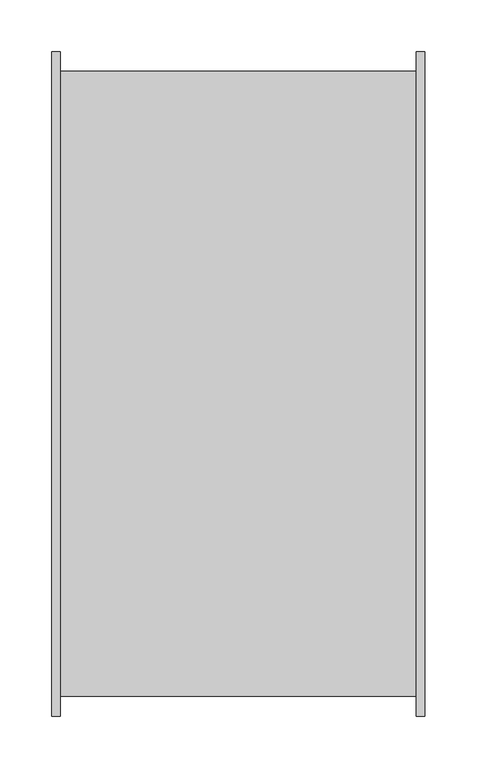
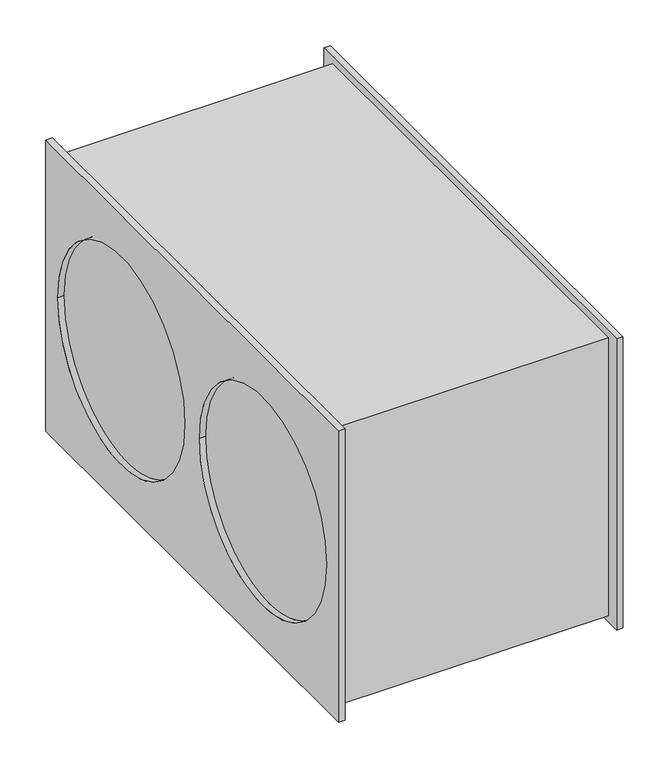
"""IFC4 building model written with IfcOpenShell, lengths in millimetres: unitary equipment geometry, VE-Wentylator-ParaForma-Harmann-JETTEC_REC-Nawiewny : 060/35/3500S."""

from ifc_helpers import new_model, si_unit, frame, origin, place, context, project, spatial, polyline, circle_curve, source, transform, mapped, element, save
from ifc_brep_helpers import plane_surface, revolved_surface, advanced_brep


def unitary_equipment_565278f3(model_context):
    return source(origin(), model_context, "Body", "AdvancedBrep", [
        advanced_brep(
        [(171.5, -319.8, -194.0), (171.5, -319.8, 194.0), (171.5, 319.8, 194.0), (171.5, 319.8, -194.0), (171.5, -301.0, 184.0), (171.5, -301.0, -186.5), (171.5, 301.0, -186.5), (171.5, 301.0, 184.0), (179.5, -319.8, -194.0), (179.5, 319.8, -194.0), (179.5, 319.8, 194.0), (179.5, -319.8, 194.0), (179.5, -293.55, 0.0), (179.5, -16.05, 0.0), (179.5, 16.05, 0.0), (179.5, 293.55, 0.0), (171.5, -16.05, 0.0), (171.5, -293.55, 0.0), (171.5, 293.55, 0.0), (171.5, 16.05, 0.0), (-171.5, -293.55, 0.0), (-171.5, -16.05, 0.0), (-171.5, 16.05, 0.0), (-171.5, 293.55, 0.0), (-171.5, -301.0, -186.5), (-171.5, -301.0, 184.0), (-171.5, 301.0, 184.0), (-171.5, 301.0, -186.5), (-179.5, -319.8, -194.0), (-179.5, -319.8, 194.0), (-179.5, 319.8, 194.0), (-179.5, 319.8, -194.0), (-179.5, -16.05, 0.0), (-179.5, -293.55, 0.0), (-179.5, 293.55, 0.0), (-179.5, 16.05, 0.0), (-171.5, -319.8, -194.0), (-171.5, 319.8, -194.0), (-171.5, 319.8, 194.0), (-171.5, -319.8, 194.0)],
        [
            (0, 1),
            (1, 2),
            (2, 3),
            (3, 0),
            (4, 5),
            (5, 6),
            (6, 7),
            (7, 4),
            (8, 9),
            (9, 10),
            (10, 11),
            (11, 8),
            (12, 13, circle_curve(frame((179.5, -154.8, 0.0), z_axis=(-1.0, 0.0, 0.0), x_axis=(0.0, 1.0, 0.0)), 138.75)),
            (13, 12, circle_curve(frame((179.5, -154.8, 0.0), z_axis=(-1.0, 0.0, 0.0), x_axis=(0.0, 1.0, 0.0)), 138.75)),
            (14, 15, circle_curve(frame((179.5, 154.8, 0.0), z_axis=(-1.0, 0.0, 0.0), x_axis=(0.0, 1.0, 0.0)), 138.75)),
            (15, 14, circle_curve(frame((179.5, 154.8, 0.0), z_axis=(-1.0, 0.0, 0.0), x_axis=(0.0, 1.0, 0.0)), 138.75)),
            (0, 8),
            (11, 1),
            (10, 2),
            (9, 3),
            (16, 13),
            (12, 17),
            (17, 16, circle_curve(frame((171.5, -154.8, 0.0), z_axis=(-1.0, 0.0, 0.0), x_axis=(0.0, 1.0, 0.0)), 138.75)),
            (16, 17, circle_curve(frame((171.5, -154.8, 0.0), z_axis=(-1.0, 0.0, 0.0), x_axis=(0.0, 1.0, 0.0)), 138.75)),
            (18, 15),
            (14, 19),
            (19, 18, circle_curve(frame((171.5, 154.8, 0.0), z_axis=(-1.0, 0.0, 0.0), x_axis=(0.0, 1.0, 0.0)), 138.75)),
            (18, 19, circle_curve(frame((171.5, 154.8, 0.0), z_axis=(-1.0, 0.0, 0.0), x_axis=(0.0, 1.0, 0.0)), 138.75)),
            (20, 21, circle_curve(frame((-171.5, -154.8, 0.0), z_axis=(-1.0, 0.0, 0.0), x_axis=(0.0, 1.0, 0.0)), 138.75)),
            (21, 20, circle_curve(frame((-171.5, -154.8, 0.0), z_axis=(-1.0, 0.0, 0.0), x_axis=(0.0, 1.0, 0.0)), 138.75)),
            (22, 23, circle_curve(frame((-171.5, 154.8, 0.0), z_axis=(-1.0, 0.0, 0.0), x_axis=(0.0, 1.0, 0.0)), 138.75)),
            (23, 22, circle_curve(frame((-171.5, 154.8, 0.0), z_axis=(-1.0, 0.0, 0.0), x_axis=(0.0, 1.0, 0.0)), 138.75)),
            (24, 5),
            (4, 25),
            (25, 24),
            (7, 26),
            (26, 25),
            (6, 27),
            (27, 26),
            (24, 27),
            (28, 29),
            (29, 30),
            (30, 31),
            (31, 28),
            (32, 33, circle_curve(frame((-179.5, -154.8, 0.0), z_axis=(1.0, 0.0, 0.0), x_axis=(0.0, 1.0, 0.0)), 138.75)),
            (33, 32, circle_curve(frame((-179.5, -154.8, 0.0), z_axis=(1.0, 0.0, 0.0), x_axis=(0.0, 1.0, 0.0)), 138.75)),
            (34, 35, circle_curve(frame((-179.5, 154.8, 0.0), z_axis=(1.0, 0.0, 0.0), x_axis=(0.0, 1.0, 0.0)), 138.75)),
            (35, 34, circle_curve(frame((-179.5, 154.8, 0.0), z_axis=(1.0, 0.0, 0.0), x_axis=(0.0, 1.0, 0.0)), 138.75)),
            (36, 37),
            (37, 38),
            (38, 39),
            (39, 36),
            (28, 36),
            (39, 29),
            (38, 30),
            (37, 31),
            (32, 21),
            (20, 33),
            (34, 23),
            (22, 35),
        ],
        [
            plane_surface(frame((171.5, 0.0, 0.0), z_axis=(-1.0, 0.0, 0.0), x_axis=(0.0, 0.0, 1.0))),
            plane_surface(frame((179.5, 0.0, 0.0), z_axis=(1.0, 0.0, 0.0), x_axis=(0.0, 0.0, 1.0))),
            plane_surface(frame((171.5, -319.8, -194.0), z_axis=(0.0, -1.0, 0.0), x_axis=(1.0, 0.0, 0.0))),
            plane_surface(frame((171.5, -319.8, 194.0), z_axis=(0.0, 0.0, 1.0), x_axis=(1.0, 0.0, 0.0))),
            plane_surface(frame((171.5, 319.8, 194.0), z_axis=(0.0, 1.0, 0.0), x_axis=(1.0, 0.0, 0.0))),
            plane_surface(frame((171.5, 319.8, -194.0), z_axis=(0.0, 0.0, -1.0), x_axis=(1.0, 0.0, 0.0))),
            revolved_surface(polyline([(171.5, -16.05000000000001, 0.0), (179.5, -16.05000000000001, 0.0)]), (171.5, -154.8, 0.0), (-1.0, 0.0, 0.0)),
            revolved_surface(polyline([(171.5, 293.55, 0.0), (179.5, 293.55, 0.0)]), (171.5, 154.8, 0.0), (-1.0, 0.0, 0.0)),
            plane_surface(frame((-171.5, 0.0, 0.0), z_axis=(-1.0, 0.0, 0.0), x_axis=(0.0, 0.0, 1.0))),
            plane_surface(frame((171.5, 0.0, 0.0), z_axis=(1.0, 0.0, 0.0), x_axis=(0.0, 0.0, 1.0))),
            plane_surface(frame((-171.5, -301.0, -186.5), z_axis=(0.0, -1.0, 0.0), x_axis=(1.0, 0.0, 0.0))),
            plane_surface(frame((-171.5, -301.0, 184.0), z_axis=(0.0, 0.0, 1.0), x_axis=(1.0, 0.0, 0.0))),
            plane_surface(frame((-171.5, 301.0, 184.0), z_axis=(0.0, 1.0, 0.0), x_axis=(1.0, 0.0, 0.0))),
            plane_surface(frame((-171.5, 301.0, -186.5), z_axis=(0.0, 0.0, -1.0), x_axis=(1.0, 0.0, 0.0))),
            plane_surface(frame((-179.5, 0.0, 0.0), z_axis=(-1.0, 0.0, 0.0), x_axis=(0.0, 0.0, 1.0))),
            plane_surface(frame((-171.5, 0.0, 0.0), z_axis=(1.0, 0.0, 0.0), x_axis=(0.0, 0.0, 1.0))),
            plane_surface(frame((-179.5, -319.8, -194.0), z_axis=(0.0, -1.0, 0.0), x_axis=(1.0, 0.0, 0.0))),
            plane_surface(frame((-179.5, -319.8, 194.0), z_axis=(0.0, 0.0, 1.0), x_axis=(1.0, 0.0, 0.0))),
            plane_surface(frame((-179.5, 319.8, 194.0), z_axis=(0.0, 1.0, 0.0), x_axis=(1.0, 0.0, 0.0))),
            plane_surface(frame((-179.5, 319.8, -194.0), z_axis=(0.0, 0.0, -1.0), x_axis=(1.0, 0.0, 0.0))),
            revolved_surface(polyline([(-179.5, -16.05000000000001, 0.0), (-171.5, -16.05000000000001, 0.0)]), (-179.5, -154.8, 0.0), (-1.0, 0.0, 0.0)),
            revolved_surface(polyline([(-179.5, 293.55, 0.0), (-171.5, 293.55, 0.0)]), (-179.5, 154.8, 0.0), (-1.0, 0.0, 0.0)),
        ],
        [
            (0, [[1, 2, 3, 4], [5, 6, 7, 8]]),
            (1, [[9, 10, 11, 12], [13, 14], [15, 16]]),
            (2, [[-1, 17, -12, 18]]),
            (3, [[-2, -18, -11, 19]]),
            (4, [[-3, -19, -10, 20]]),
            (5, [[-4, -20, -9, -17]]),
            (6, [[21, -13, 22, 23]]),
            (6, [[-21, 24, -22, -14]]),
            (7, [[25, -15, 26, 27]]),
            (7, [[-25, 28, -26, -16]]),
            (8, [[29, 30]]),
            (8, [[31, 32]]),
            (9, [[-23, -24]]),
            (9, [[-27, -28]]),
            (10, [[33, -5, 34, 35]]),
            (11, [[-34, -8, 36, 37]]),
            (12, [[-36, -7, 38, 39]]),
            (13, [[-33, 40, -38, -6]]),
            (14, [[41, 42, 43, 44], [45, 46], [47, 48]]),
            (15, [[49, 50, 51, 52], [-35, -37, -39, -40]]),
            (16, [[-41, 53, -52, 54]]),
            (17, [[-42, -54, -51, 55]]),
            (18, [[-43, -55, -50, 56]]),
            (19, [[-44, -56, -49, -53]]),
            (20, [[57, -29, 58, -45]]),
            (20, [[-57, -46, -58, -30]]),
            (21, [[59, -31, 60, -47]]),
            (21, [[-59, -48, -60, -32]]),
        ],
    ),
    ])


if __name__ == "__main__":
    model = new_model("IFC4")
    model_context = context("Model", 3, world=origin())
    ifc_project = project(units=[si_unit("LENGTHUNIT", "METRE", prefix="MILLI")], contexts=[model_context])
    site = spatial("IfcSite", under=ifc_project)
    building = spatial("IfcBuilding", under=site)
    placement = place(None, origin())
    unitary_equipment_shape = unitary_equipment_565278f3(model_context)
    element("IfcUnitaryEquipment", 1, ObjectType="VE-Wentylator-ParaForma-Harmann-JETTEC_REC-Nawiewny : 060/35/3500S", at=placement, inside=building, context=model_context, shape_type="MappedRepresentation", body=[
        mapped(unitary_equipment_shape, transform((0.0, 0.0, 0.0), x_axis=(1.0, 0.0, 0.0), y_axis=(0.0, 1.0, 0.0), z_axis=(0.0, 0.0, 1.0))),
    ])
    save(model, "model.ifc")
